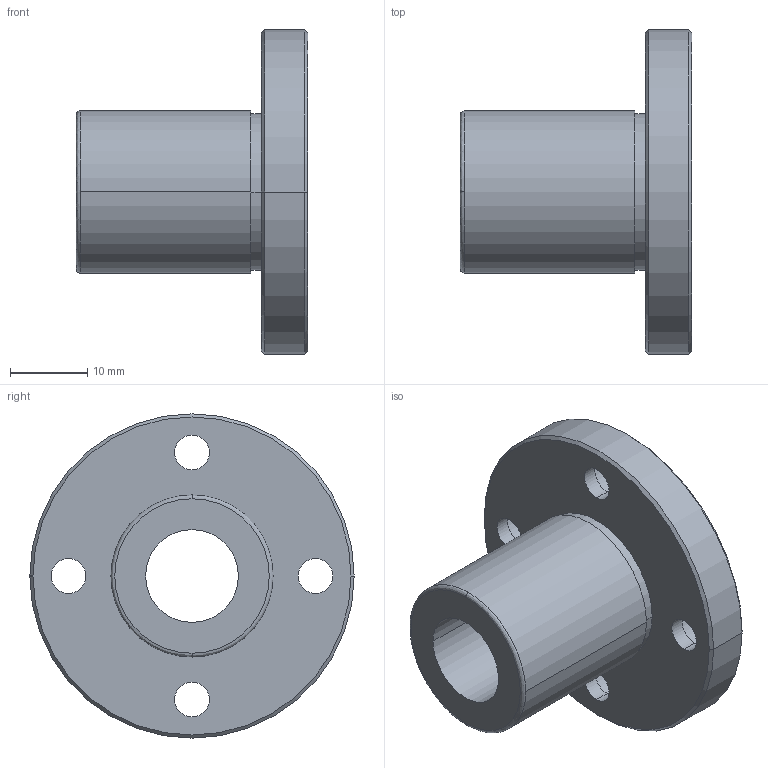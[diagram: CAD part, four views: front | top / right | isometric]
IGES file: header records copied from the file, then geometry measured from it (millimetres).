
Start section: 3D InterOp IGES (Version 21 0 1), Spatial Corp. Copyright (c) 1999-2007.
Global section: file name: NFED-12VUU.igs; native system: Spatial Corp.; preprocessor: 3D InterOp GENERIC/IGES 3.0; author: Noname; organization: Noname; date: 20220308.100856; units: millimetre
Bounding box: 30 x 42 x 42 mm (x, y, z)
Surface area: 6383.1 mm2 (no closed solid volume)
Topology: 0 solids, 0 shells, 38 faces, 174 edges, 174 vertices
Faces by surface type: revolution 30, extrusion 8
